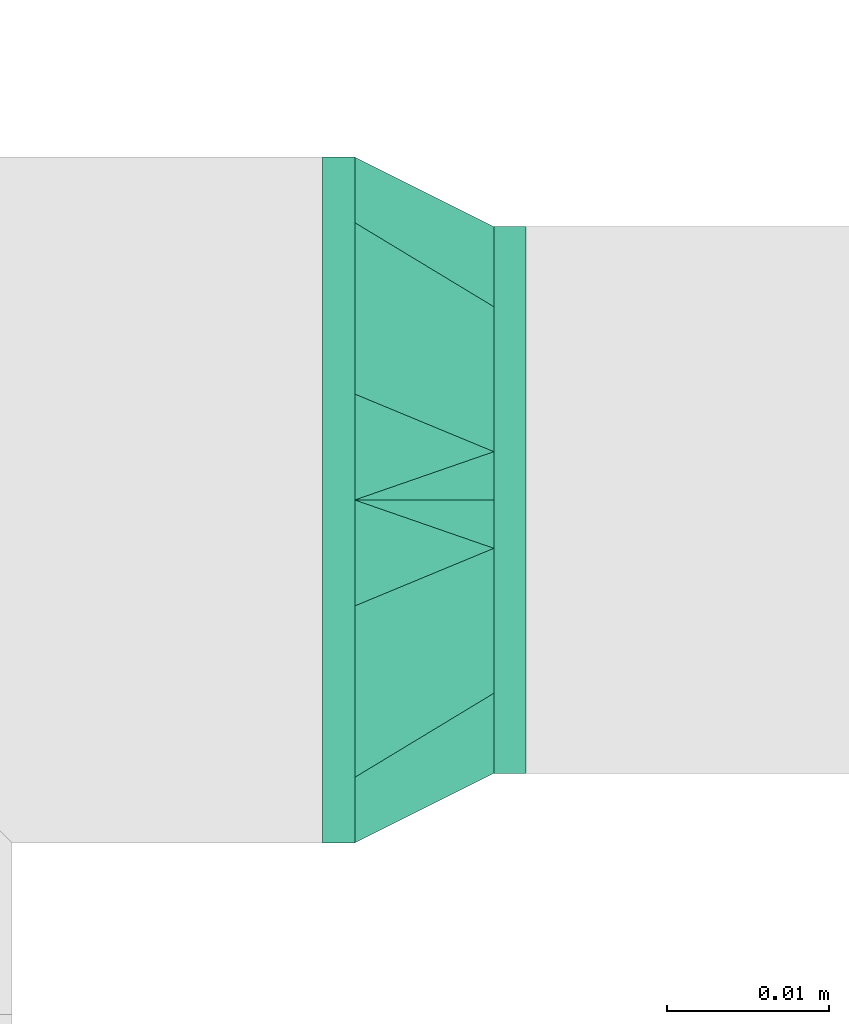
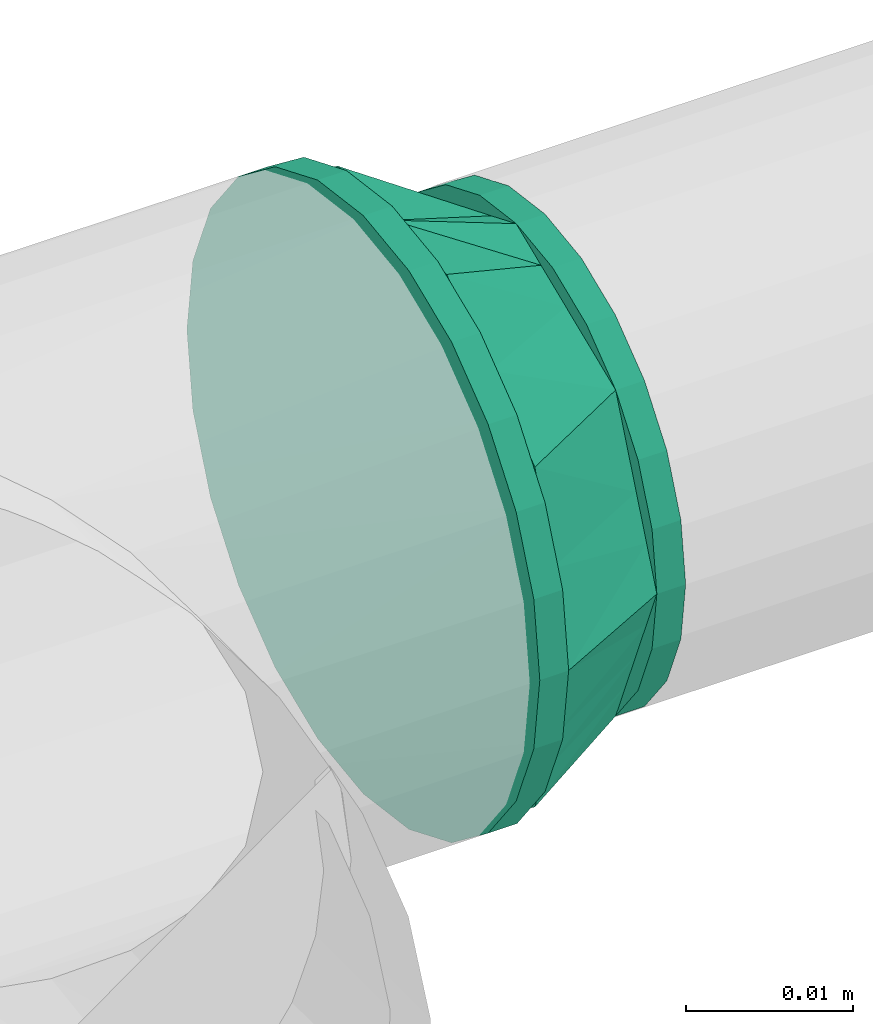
# One storey, part 34 of 94: 1 flow fitting.
"""IFC2X3 building model written with IfcOpenShell, lengths in millimetres."""

import ifcopenshell
import ifcopenshell.guid

model = None  # the IFC model being written
_history = None  # IfcOwnerHistory: only IFC2X3 demands one
_inside = {}  # id of a spatial element -> (the spatial element, [elements in it])
_under = {}  # id of a project, library or spatial element -> (it, [spatial elements below it])
_declared = {}  # id of a project -> (the project, [libraries it declares])
_typed = {}  # id of a type object -> (the type object, [elements of that type])
_made_of = {}  # id of a material, layer set ... -> (it, [elements and type objects made of it])


def new_model(schema):
    """Start an empty IFC model of exactly this schema.

    Asked for "IFC4X3", IfcOpenShell would pick the latest addendum, in which some entities
    have other attributes; the version numbers below select the first issue.
    IFC2X3 requires an IfcOwnerHistory on every rooted entity: one is made here for all.
    """
    global model, _history
    if schema == "IFC4X3":
        model = ifcopenshell.file(schema_version=(4, 3, 0, 0))
    else:
        model = ifcopenshell.file(schema=schema)
    _inside.clear()
    _under.clear()
    _declared.clear()
    _typed.clear()
    _made_of.clear()
    _history = None
    if model.schema == "IFC2X3":
        org = make("IfcOrganization", Name="unknown")
        user = make(
            "IfcPersonAndOrganization",
            ThePerson=make("IfcPerson", FamilyName="unknown"),
            TheOrganization=org,
        )
        app = make(
            "IfcApplication",
            ApplicationDeveloper=org,
            Version="unknown",
            ApplicationFullName="unknown",
            ApplicationIdentifier="unknown",
        )
        _history = make(
            "IfcOwnerHistory",
            OwningUser=user,
            OwningApplication=app,
            ChangeAction="ADDED",
            CreationDate=0,
        )
    return model


def make(cls, **values):
    """One entity of the class cls with the attributes given. An attribute that is None is left unset."""
    return model.create_entity(
        cls, **{name: value for name, value in values.items() if value is not None}
    )


def entity(cls, *values):
    """Any entity or typed value of the class cls, its attributes in the order of the schema. None: left unset."""
    e = model.create_entity(cls)
    for i, value in enumerate(values):
        if value is not None:
            e[i] = value
    return e


def rooted(cls, **values):
    """An entity with a GlobalId (a new one), such as an element, a storey or a relation."""
    return make(cls, GlobalId=ifcopenshell.guid.new(), OwnerHistory=_history, **values)


def si_unit(unit_type, name, prefix=None):
    """IfcSIUnit, for example si_unit("LENGTHUNIT", "METRE", prefix="MILLI")."""
    return make("IfcSIUnit", UnitType=unit_type, Prefix=prefix, Name=name)


def converted_unit(unit_type, name, factor, base, dimensions=None, offset=None):
    """IfcConversionBasedUnit, such as the inch: factor (a typed value) times the base unit."""
    return make(
        "IfcConversionBasedUnit"
        if offset is None
        else "IfcConversionBasedUnitWithOffset",
        ConversionOffset=offset,
        Dimensions=None
        if dimensions is None
        else entity("IfcDimensionalExponents", *dimensions),
        UnitType=unit_type,
        Name=name,
        ConversionFactor=make(
            "IfcMeasureWithUnit", ValueComponent=factor, UnitComponent=base
        ),
    )


def derived_unit(unit_type, elements):
    """IfcDerivedUnit: a product of units, each with its exponent."""
    return make(
        "IfcDerivedUnit",
        Elements=[
            make("IfcDerivedUnitElement", Unit=unit, Exponent=power)
            for unit, power in elements
        ],
        UnitType=unit_type,
    )


def assignment(units):
    """IfcUnitAssignment: the units of a project."""
    return None if units is None else make("IfcUnitAssignment", Units=units)


def point(xyz):
    """IfcCartesianPoint."""
    return None if xyz is None else make("IfcCartesianPoint", Coordinates=xyz)


def direction(xyz):
    """IfcDirection."""
    return None if xyz is None else make("IfcDirection", DirectionRatios=xyz)


def frame(location, z_axis=None, x_axis=None):
    """IfcAxis2Placement3D, a coordinate frame: its origin and axes. An axis left out is left unset."""
    return make(
        "IfcAxis2Placement3D",
        Location=point(location),
        Axis=direction(z_axis),
        RefDirection=direction(x_axis),
    )


def origin_with_axes():
    """The frame at (0, 0, 0) with the z axis (0, 0, 1) and the x axis (1, 0, 0) written out."""
    return frame((0.0, 0.0, 0.0), z_axis=(0.0, 0.0, 1.0), x_axis=(1.0, 0.0, 0.0))


def place(relative_to, where):
    """IfcLocalPlacement: puts the frame where relative to a parent placement (None: the world)."""
    return make(
        "IfcLocalPlacement", PlacementRelTo=relative_to, RelativePlacement=where
    )


def context(
    kind, dimensions, precision=None, world=None, true_north=None, identifier=None
):
    """IfcGeometricRepresentationContext, for example the 3D "Model" context."""
    return make(
        "IfcGeometricRepresentationContext",
        ContextIdentifier=identifier,
        ContextType=kind,
        CoordinateSpaceDimension=dimensions,
        Precision=precision,
        WorldCoordinateSystem=world,
        TrueNorth=true_north,
    )


def subcontext(parent, identifier, kind, view, scale=None):
    """IfcGeometricRepresentationSubContext, for example "Body" below "Model"."""
    return make(
        "IfcGeometricRepresentationSubContext",
        ContextIdentifier=identifier,
        ContextType=kind,
        ParentContext=parent,
        TargetScale=scale,
        TargetView=view,
    )


def project(units=None, contexts=None):
    """IfcProject with its units and contexts."""
    return rooted(
        "IfcProject",
        Name="project",
        RepresentationContexts=contexts,
        UnitsInContext=assignment(units),
    )


def spatial(cls, under=None, at=None, **own):
    """A site, building, storey or space (cls), placed at a placement, below another one or the project."""
    s = rooted(cls, ObjectPlacement=at, **own)
    if under is not None:
        _under.setdefault(under.id(), (under, []))[1].append(s)
    return s


def faces_of(points, faces, orient=None, outer=None):
    """IfcFace entities. A face is a list of loops; a loop is a list of indices into points, from 0.

    orient and outer hold one flag for each loop. By default every Orientation is true, the
    first loop of a face is its IfcFaceOuterBound and the others are IfcFaceBound.
    """
    made = []
    for i, loops in enumerate(faces):
        bounds = []
        for j, loop in enumerate(loops):
            is_outer = j == 0 if outer is None else outer[i][j]
            bounds.append(
                make(
                    "IfcFaceOuterBound" if is_outer else "IfcFaceBound",
                    Bound=make("IfcPolyLoop", Polygon=[points[k] for k in loop]),
                    Orientation=True if orient is None else orient[i][j],
                )
            )
        made.append(make("IfcFace", Bounds=bounds))
    return made


def open_shell(faces, orient=None, outer=None):
    """The faces of one IfcOpenShell. surface_model builds it on its shared points."""
    return ("IfcOpenShell", faces, orient, outer)


def surface_model(cls, points, shells):
    """IfcFaceBasedSurfaceModel or IfcShellBasedSurfaceModel (cls): surfaces that need not close."""
    shared = [point(p) for p in points]
    made = [make(c, CfsFaces=faces_of(shared, fs, o, b)) for c, fs, o, b in shells]
    if cls == "IfcFaceBasedSurfaceModel":
        return make(cls, FbsmFaces=made)
    return make(cls, SbsmBoundary=made)


def shape(context_of_items, identifier, shape_type, items):
    """IfcShapeRepresentation: the items that make up one representation, for example the "Body"."""
    return make(
        "IfcShapeRepresentation",
        ContextOfItems=context_of_items,
        RepresentationIdentifier=identifier,
        RepresentationType=shape_type,
        Items=items,
    )


def source(mapping_origin, context_of_items, identifier, shape_type, items):
    """IfcRepresentationMap: a shape defined once, which mapped items show again and again."""
    return make(
        "IfcRepresentationMap",
        MappingOrigin=mapping_origin,
        MappedRepresentation=shape(context_of_items, identifier, shape_type, items),
    )


def transform(
    local_origin,
    x_axis=None,
    y_axis=None,
    z_axis=None,
    scale=None,
    scale2=None,
    scale3=None,
    uniform=True,
):
    """IfcCartesianTransformationOperator3D, or its non-uniform kind. x_axis, y_axis, z_axis: its Axis1, 2, 3."""
    if uniform:
        return make(
            "IfcCartesianTransformationOperator3D",
            Axis1=direction(x_axis),
            Axis2=direction(y_axis),
            LocalOrigin=point(local_origin),
            Scale=scale,
            Axis3=direction(z_axis),
        )
    return make(
        "IfcCartesianTransformationOperator3DnonUniform",
        Axis1=direction(x_axis),
        Axis2=direction(y_axis),
        LocalOrigin=point(local_origin),
        Scale=scale,
        Axis3=direction(z_axis),
        Scale2=scale2,
        Scale3=scale3,
    )


def mapped(mapping_source, mapping_target):
    """IfcMappedItem: shows the shape of a source again, moved by a transform."""
    return make(
        "IfcMappedItem", MappingSource=mapping_source, MappingTarget=mapping_target
    )


def made_of(thing, what):
    """Note that an element or type object is made of a material, layer set ...; save() writes the relation."""
    if what is not None:
        _made_of.setdefault(what.id(), (what, []))[1].append(thing)
    return thing


def type_object(cls, material=None, **own):
    """A type object (cls), such as IfcWallType, which elements share."""
    return made_of(rooted(cls, **own), material)


def element(
    cls,
    number,
    at=None,
    inside=None,
    cuts=None,
    type_object=None,
    material=None,
    context=None,
    identifier="Body",
    shape_type=None,
    held_by="IfcProductDefinitionShape",
    body=None,
    shapes=None,
    **own,
):
    """One element of the class cls, such as IfcWall. Its Tag is "e" and its number.

    at: its placement. inside: the storey or other place that contains it. cuts: it is an
    opening in that element (IfcRelVoidsElement). A single representation is given by context,
    identifier, shape_type and body (its items); several are given by shapes. held_by: the class
    of the entity that holds the representations. save() writes the other relations.
    """
    e = rooted(cls, Tag="e%d" % number, ObjectPlacement=at, **own)
    if body is not None:
        shapes = [shape(context, identifier, shape_type, body)]
    if shapes is not None:
        e.Representation = make(held_by, Representations=shapes)
    if inside is not None:
        _inside.setdefault(inside.id(), (inside, []))[1].append(e)
    if cuts is not None:
        rooted(
            "IfcRelVoidsElement", RelatingBuildingElement=cuts, RelatedOpeningElement=e
        )
    if type_object is not None:
        _typed.setdefault(type_object.id(), (type_object, []))[1].append(e)
    return made_of(e, material)


def aggregate(whole, parts):
    """IfcRelAggregates: a whole, such as a stair, and the parts it consists of."""
    return rooted("IfcRelAggregates", RelatingObject=whole, RelatedObjects=parts)


def save(model, path):
    """Write the relations noted so far, then the file.

    IfcRelAggregates (storeys below a building ...), IfcRelContainedInSpatialStructure (elements
    in a storey), IfcRelDefinesByType, IfcRelAssociatesMaterial and IfcRelDeclares: one each for
    every whole, place, type object, material and project.
    """
    for whole, parts in _under.values():
        aggregate(whole, parts)
    for where, things in _inside.values():
        rooted(
            "IfcRelContainedInSpatialStructure",
            RelatedElements=things,
            RelatingStructure=where,
        )
    for kind, things in _typed.values():
        rooted("IfcRelDefinesByType", RelatedObjects=things, RelatingType=kind)
    for what, things in _made_of.values():
        rooted("IfcRelAssociatesMaterial", RelatedObjects=things, RelatingMaterial=what)
    for by, libraries in _declared.values():
        rooted("IfcRelDeclares", RelatingContext=by, RelatedDefinitions=libraries)
    model.write(path)


model = new_model("IFC2X3")

# Units and contexts
model_context = context("Model", 3, precision=0.01, world=frame((0.0, 4.29681676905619e-09, 0.0)), true_north=direction((4.01073788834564e-13, 1.0)))
plan_context = context("Plan", 3, precision=0.01, world=frame((0.0, 4.29681676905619e-09, 0.0)), true_north=direction((4.01073788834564e-13, 1.0)))
body_context = subcontext(model_context, "Body", "Model", "MODEL_VIEW")
ifc_project = project(units=[converted_unit("PLANEANGLEUNIT", "DEGREE", entity("IfcPositiveLengthMeasure", 0.0174532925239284), si_unit("PLANEANGLEUNIT", "RADIAN"), dimensions=[0, 0, 0, 0, 0, 0, 0]), si_unit("AREAUNIT", "SQUARE_METRE"), si_unit("LENGTHUNIT", "METRE", prefix="MILLI"), si_unit("MASSUNIT", "GRAM", prefix="KILO"), si_unit("POWERUNIT", "WATT"), si_unit("PRESSUREUNIT", "PASCAL"), si_unit("FORCEUNIT", "NEWTON", prefix="KILO"), si_unit("ELECTRICCURRENTUNIT", "AMPERE"), si_unit("THERMODYNAMICTEMPERATUREUNIT", "DEGREE_CELSIUS"), si_unit("TIMEUNIT", "SECOND"), si_unit("VOLUMEUNIT", "CUBIC_METRE"), derived_unit("LINEARVELOCITYUNIT", [(si_unit("LENGTHUNIT", "METRE"), 1), (si_unit("TIMEUNIT", "SECOND"), -1)]), derived_unit("VOLUMETRICFLOWRATEUNIT", [(si_unit("VOLUMEUNIT", "CUBIC_METRE"), 1), (si_unit("TIMEUNIT", "SECOND"), -1)]), derived_unit("THERMALTRANSMITTANCEUNIT", [(si_unit("POWERUNIT", "WATT"), 1), (si_unit("THERMODYNAMICTEMPERATUREUNIT", "KELVIN"), -1), (si_unit("AREAUNIT", "SQUARE_METRE"), -1)])], contexts=[model_context, plan_context])

# Site, building, storey
site_placement = place(None, frame((0.0, -4.29681676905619e-09, 0.0), z_axis=(0.0, 0.0, 1.0), x_axis=(1.0, 0.0, 0.0)))
site = spatial("IfcSite", under=ifc_project, at=site_placement, CompositionType="ELEMENT")
building_placement = place(site_placement, frame((0.0, 4.29681676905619e-09, 0.0), z_axis=(0.0, 0.0, 1.0), x_axis=(1.0, 0.0, 0.0)))
building = spatial("IfcBuilding", under=site, at=building_placement, Name="mc-building", CompositionType="ELEMENT")
storey_placement = place(building_placement, frame((0.0, 0.0, 200300.0), z_axis=(0.0, 0.0, 1.0), x_axis=(1.0, 0.0, 0.0)))
storey = spatial("IfcBuildingStorey", under=building, at=storey_placement, Name="Nivå C", CompositionType="ELEMENT", Elevation=200300.0)

# Flow fitting
pipe_fitting_type = type_object("IfcPipeFittingType", Name="magi_pipe_fe_reducer_centric_short_NOR", PredefinedType="TRANSITION")
shared_shape = source(origin_with_axes(), body_context, "Body", "SurfaceModel", [
    surface_model("IfcShellBasedSurfaceModel", [(-2.0, -10.6, -18.35974), (-2.0, 0.0, -21.2), (-2.0, -5.48696, -20.47763), (-2.0, 5.48696, -20.47763), (-2.0, 10.6, -18.35974), (8.6, -11.9501, -11.9501), (8.6, -11.9501, 11.9501), (8.6, -16.9, 0.0), (8.6, 11.9501, -11.9501), (8.6, 16.9, 0.0), (8.6, 0.0, -16.9), (0.0, 17.15116, 12.46105), (0.0, 6.55116, -20.1624), (0.0, -21.2, 0.0), (0.0, -6.55116, -20.1624), (0.0, -17.15116, -12.46105), (8.6, 2.98753, -15.66253), (0.0, 0.0, -20.1624), (0.0, -11.85116, -16.31172), (8.6, -2.98753, -15.66253), (8.6, 8.96258, -13.18758), (8.6, 5.97505, -14.42505), (0.0, 11.85116, -16.31172), (8.6, -5.97505, -14.42505), (8.6, -13.18758, -8.96258), (8.6, -8.96258, -13.18758), (0.0, -6.55116, 20.1624), (8.6, -2.98753, 15.66253), (0.0, 0.0, 20.1624), (8.6, 11.9501, 11.9501), (0.0, 11.85116, 16.31172), (8.6, 2.98753, 15.66253), (0.0, 6.55116, 20.1624), (8.6, -8.96258, 13.18758), (8.6, -5.97505, 14.42505), (0.0, -11.85116, 16.31172), (8.6, 5.97505, 14.42505), (8.6, 13.18758, 8.96258), (8.6, 8.96258, 13.18758), (10.6, 4.37404, -16.32415), (10.6, 8.45, -14.63583), (10.6, 11.9501, -11.9501), (10.6, -8.45, -14.63583), (10.6, 16.32415, -4.37404), (10.6, 16.32415, 4.37404), (10.6, 14.63583, -8.45), (10.6, 0.0, -16.9), (10.6, -4.37404, -16.32415), (10.6, -11.9501, -11.9501), (10.6, -16.32415, -4.37404), (10.6, -14.63583, -8.45), (10.6, -16.32415, 4.37404), (10.6, 16.9, 0.0), (10.6, 14.63583, 8.45), (10.6, 11.9501, 11.9501), (10.6, 4.37404, 16.32415), (10.6, 8.45, 14.63583), (10.6, 0.0, 16.9), (10.6, -14.63583, 8.45), (10.6, -16.9, 0.0), (10.6, -8.45, 14.63583), (10.6, -11.9501, 11.9501), (10.6, -4.37404, 16.32415), (8.6, 4.37404, 16.32415), (8.6, -14.63583, 8.45), (8.6, 0.0, 16.9), (8.6, 16.32415, 4.37404), (8.6, 8.45, 14.63583), (8.6, 14.63583, 8.45), (8.6, -8.45, 14.63583), (8.6, -4.37404, 16.32415), (8.6, -16.32415, 4.37404), (8.6, -16.32415, -4.37404), (8.6, -8.45, -14.63583), (8.6, 16.32415, -4.37404), (8.6, 14.63583, -8.45), (8.6, 8.45, -14.63583), (8.6, 4.37404, -16.32415), (8.6, -14.63583, -8.45), (8.6, -4.37404, -16.32415), (-2.0, 0.0, 21.2), (-2.0, 5.48696, 20.47763), (-2.0, 10.6, 18.35974), (-2.0, 14.99066, 14.99066), (-2.0, 18.35974, 10.6), (-2.0, 20.47763, 5.48696), (-2.0, -21.2, 0.0), (-2.0, -14.99066, -14.99066), (-2.0, -5.48696, 20.47763), (-2.0, -14.99066, 14.99066), (-2.0, -10.6, 18.35974), (-2.0, -18.35974, 10.6), (-2.0, -20.47763, 5.48696), (-2.0, 20.47763, -5.48696), (-2.0, 14.99066, -14.99066), (-2.0, 18.35974, -10.6), (-2.0, -18.35974, -10.6), (-2.0, -20.47763, -5.48696), (-2.0, 21.2, 0.0), (0.0, 10.6, -18.35974), (0.0, 0.0, -21.2), (0.0, 5.48696, -20.47763), (0.0, 20.47763, -5.48696), (0.0, 14.99066, -14.99066), (0.0, -14.99066, -14.99066), (0.0, 18.35974, -10.6), (0.0, -10.6, -18.35974), (0.0, -5.48696, -20.47763), (0.0, -18.35974, -10.6), (0.0, -20.47763, -5.48696), (0.0, -18.35974, 10.6), (0.0, 21.2, 0.0), (0.0, 20.47763, 5.48696), (0.0, 18.35974, 10.6), (0.0, 14.99066, 14.99066), (0.0, 0.0, 21.2), (0.0, 10.6, 18.35974), (0.0, 5.48696, 20.47763), (0.0, -14.99066, 14.99066), (0.0, -20.47763, 5.48696), (0.0, -5.48696, 20.47763), (0.0, -10.6, 18.35974), (0.0, -17.15116, 12.46105), (0.0, 17.15116, -12.46105), (0.0, 14.50116, -14.38638), (8.6, -14.42505, -5.97505), (0.0, -19.17558, -6.23052), (0.0, -18.16337, -9.34579), (8.6, 14.42505, -5.97505), (0.0, 19.17558, -6.23052), (8.6, 13.18758, -8.96258), (8.6, 15.66253, -2.98753), (8.6, -15.66253, -2.98753), (0.0, -14.50116, 14.38638), (8.6, 14.42505, 5.97505), (0.0, 19.17558, 6.23052), (0.0, 18.16337, 9.34579), (8.6, -14.42505, 5.97505), (0.0, -19.17558, 6.23052), (8.6, -13.18758, 8.96258), (8.6, -15.66253, 2.98753), (8.6, 15.66253, 2.98753)], [open_shell([[[0, 1, 2]], [[3, 1, 4]], [[5, 6, 7]], [[8, 9, 10]], [[11, 12, 13]], [[13, 12, 14]], [[13, 14, 15]], [[12, 16, 17]], [[5, 15, 18]], [[17, 19, 14]], [[20, 21, 22]], [[19, 23, 14]], [[12, 21, 16]], [[15, 5, 24]], [[25, 5, 18]], [[22, 8, 20]], [[26, 27, 28]], [[29, 11, 30]], [[28, 31, 32]], [[33, 34, 35]], [[31, 36, 32]], [[26, 34, 27]], [[11, 29, 37]], [[38, 29, 30]], [[35, 6, 33]], [[39, 40, 41]], [[42, 39, 41]], [[41, 43, 44]], [[43, 41, 45]], [[41, 44, 42]], [[46, 42, 47]], [[46, 39, 42]], [[48, 49, 50]], [[49, 48, 42]], [[42, 51, 49]], [[44, 43, 52]], [[44, 53, 54]], [[44, 54, 55]], [[55, 51, 42]], [[55, 54, 56]], [[51, 55, 57]], [[57, 58, 51]], [[59, 49, 51]], [[58, 60, 61]], [[58, 57, 60]], [[60, 57, 62]], [[42, 44, 55]], [[63, 64, 65]], [[66, 63, 67]], [[29, 68, 66]], [[29, 66, 67]], [[64, 63, 66]], [[69, 64, 6]], [[69, 70, 65]], [[65, 64, 69]], [[71, 64, 66]], [[71, 72, 7]], [[71, 66, 73]], [[66, 74, 8]], [[8, 74, 75]], [[8, 76, 77]], [[73, 66, 8]], [[77, 10, 8]], [[72, 5, 78]], [[5, 72, 73]], [[73, 10, 79]], [[72, 71, 73]], [[8, 10, 73]], [[74, 66, 9]], [[72, 49, 7]], [[78, 50, 72]], [[42, 5, 73]], [[78, 5, 48]], [[47, 73, 79]], [[72, 50, 49]], [[49, 59, 7]], [[47, 42, 73]], [[48, 5, 42]], [[48, 50, 78]], [[46, 47, 79]], [[79, 10, 46]], [[77, 39, 10]], [[76, 40, 77]], [[45, 8, 75]], [[76, 8, 41]], [[43, 75, 74]], [[76, 41, 40]], [[40, 39, 77]], [[52, 43, 74]], [[45, 75, 43]], [[45, 41, 8]], [[9, 52, 74]], [[10, 39, 46]], [[66, 44, 9]], [[68, 53, 66]], [[56, 29, 67]], [[68, 29, 54]], [[55, 67, 63]], [[66, 53, 44]], [[44, 52, 9]], [[55, 56, 67]], [[54, 29, 56]], [[54, 53, 68]], [[57, 55, 63]], [[63, 65, 57]], [[70, 62, 65]], [[69, 60, 70]], [[58, 6, 64]], [[69, 6, 61]], [[51, 64, 71]], [[69, 61, 60]], [[60, 62, 70]], [[59, 51, 71]], [[58, 64, 51]], [[58, 61, 6]], [[7, 59, 71]], [[65, 62, 57]], [[80, 81, 82]], [[80, 82, 83]], [[83, 84, 85]], [[83, 85, 80]], [[86, 80, 87]], [[88, 89, 90]], [[88, 80, 89]], [[91, 86, 92]], [[89, 80, 91]], [[80, 86, 91]], [[80, 85, 87]], [[85, 93, 4]], [[94, 93, 95]], [[87, 85, 4]], [[4, 93, 94]], [[86, 96, 97]], [[87, 96, 86]], [[0, 87, 4]], [[1, 0, 4]], [[93, 85, 98]], [[99, 100, 101]], [[102, 99, 103]], [[13, 104, 99]], [[102, 103, 105]], [[102, 13, 99]], [[100, 106, 107]], [[100, 99, 106]], [[108, 13, 109]], [[106, 99, 104]], [[108, 104, 13]], [[110, 102, 111]], [[112, 113, 114]], [[112, 114, 115]], [[116, 117, 115]], [[116, 115, 114]], [[112, 115, 118]], [[13, 110, 119]], [[102, 110, 13]], [[118, 120, 121]], [[110, 112, 118]], [[115, 120, 118]], [[110, 111, 112]], [[97, 109, 86]], [[96, 108, 97]], [[106, 87, 0]], [[96, 87, 104]], [[107, 0, 2]], [[97, 108, 109]], [[109, 13, 86]], [[107, 106, 0]], [[104, 87, 106]], [[104, 108, 96]], [[100, 107, 2]], [[2, 1, 100]], [[3, 101, 1]], [[4, 99, 3]], [[105, 94, 95]], [[4, 94, 103]], [[102, 95, 93]], [[4, 103, 99]], [[99, 101, 3]], [[111, 102, 93]], [[105, 95, 102]], [[105, 103, 94]], [[98, 111, 93]], [[1, 101, 100]], [[85, 112, 98]], [[84, 113, 85]], [[116, 83, 82]], [[84, 83, 114]], [[117, 82, 81]], [[85, 113, 112]], [[112, 111, 98]], [[117, 116, 82]], [[114, 83, 116]], [[114, 113, 84]], [[115, 117, 81]], [[81, 80, 115]], [[88, 120, 80]], [[90, 121, 88]], [[110, 89, 91]], [[90, 89, 118]], [[119, 91, 92]], [[90, 118, 121]], [[121, 120, 88]], [[13, 119, 92]], [[110, 91, 119]], [[110, 118, 89]], [[86, 13, 92]], [[80, 120, 115]], [[65, 6, 29]], [[9, 29, 6]], [[6, 10, 9]], [[10, 6, 5]], [[32, 11, 122]], [[32, 122, 26]], [[122, 11, 13]], [[12, 11, 123]], [[123, 11, 111]], [[8, 22, 124]], [[125, 126, 127]], [[22, 21, 12]], [[8, 124, 123]], [[128, 123, 129]], [[17, 16, 10]], [[123, 128, 130]], [[111, 131, 129]], [[13, 132, 7]], [[18, 23, 25]], [[13, 126, 132]], [[19, 17, 10]], [[131, 111, 9]], [[125, 132, 126]], [[15, 24, 127]], [[24, 125, 127]], [[8, 123, 130]], [[23, 18, 14]], [[131, 128, 129]], [[6, 35, 133]], [[134, 135, 136]], [[35, 34, 26]], [[6, 133, 122]], [[137, 122, 138]], [[28, 27, 65]], [[122, 137, 139]], [[13, 140, 138]], [[111, 141, 9]], [[30, 36, 38]], [[111, 135, 141]], [[31, 28, 65]], [[140, 13, 7]], [[134, 141, 135]], [[11, 37, 136]], [[37, 134, 136]], [[6, 122, 139]], [[36, 30, 32]], [[140, 137, 138]]])]),
])
flow_fitting_placement = place(storey_placement, frame((530003.58385, 407003.74497, 2850.0), z_axis=(0.0, 0.0, 1.0), x_axis=(1.0, 0.0, 0.0)))
element("IfcFlowFitting", 1, at=flow_fitting_placement, inside=storey, type_object=pipe_fitting_type, Name="magi_pipe_fe_reducer_centric_short_NOR", context=body_context, shape_type="MappedRepresentation", body=[
    mapped(shared_shape, transform((0.0, 0.0, 0.0), scale=1.0)),
])

save(model, "model.ifc")
